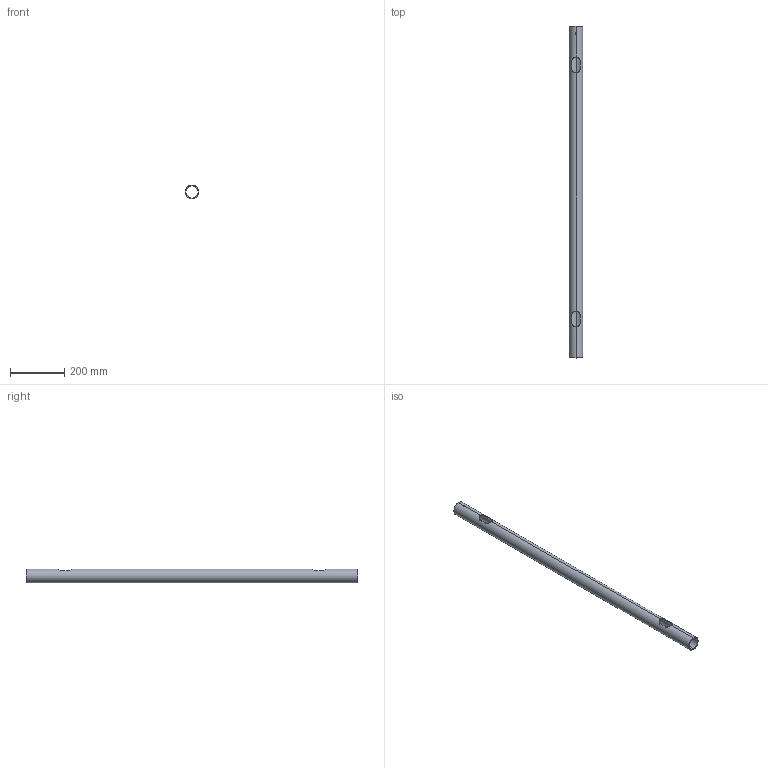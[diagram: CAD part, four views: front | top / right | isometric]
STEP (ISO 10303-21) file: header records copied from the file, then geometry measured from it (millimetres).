
FILE_DESCRIPTION (( 'STEP AP203' ), '1' );
FILE_NAME ('10-0604-00 REV 1, POLE, 2in OD x 4 FT, CABLE ROUTES.STEP', '2018-01-24T23:33:53', ( '' ), ( '' ), 'SwSTEP 2.0', 'SolidWorks 2012', '' );
FILE_SCHEMA (( 'CONFIG_CONTROL_DESIGN' ));
Length unit declared in the file: inch
Products named in the file (1): 10-0604-00 REV 1, POLE, 2in OD x 4 FT, CABLE ROUTES
Bounding box: 50.8 x 1219.2 x 50.8 mm (x, y, z)
Volume: 546833 mm3; surface area: 360904 mm2
Topology: 1 solids, 1 shells, 16 faces, 60 edges, 40 vertices
Faces by surface type: cylinder 10, plane 6
Entity records: 1255 total; most frequent: CARTESIAN_POINT 693, ORIENTED_EDGE 120, DIRECTION 78, EDGE_CURVE 60, VERTEX_POINT 40, LINE 28, VECTOR 28, AXIS2_PLACEMENT_3D 25
